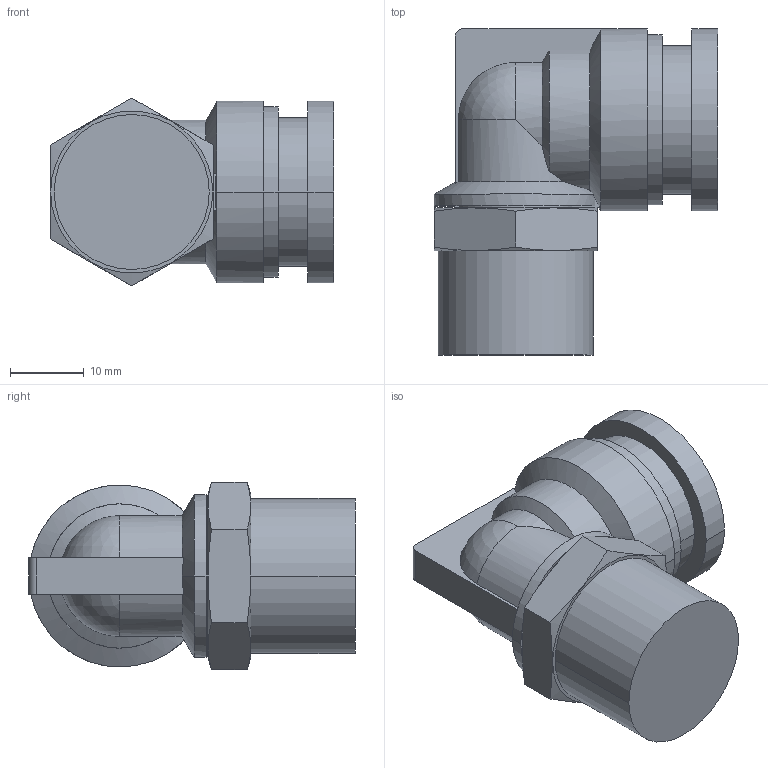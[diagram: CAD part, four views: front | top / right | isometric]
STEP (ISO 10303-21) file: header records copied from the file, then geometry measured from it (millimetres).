
FILE_DESCRIPTION( ( '' ), '1' );
FILE_NAME( 'G:/SMC狟婥/KQ2L16-04AS.stp', '2023-03-07T03:08:49', ( '' ), ( '' ), ' ', ' ', ' ' );
FILE_SCHEMA( ( 'CONFIG_CONTROL_DESIGN' ) );
Length unit declared in the file: millimetre
Products named in the file (1): 1
Bounding box: 38.3 x 44.1 x 25.4 mm (x, y, z)
Volume: 16139.3 mm3; surface area: 6757.2 mm2
Topology: 1 solids, 1 shells, 64 faces, 167 edges, 108 vertices
Faces by surface type: plane 29, cylinder 23, cone 10, sphere 2
Entity records: 2017 total; most frequent: CARTESIAN_POINT 476, ORIENTED_EDGE 330, DIRECTION 307, EDGE_CURVE 165, AXIS2_PLACEMENT_3D 121, VERTEX_POINT 108, EDGE_LOOP 69, LINE 65
